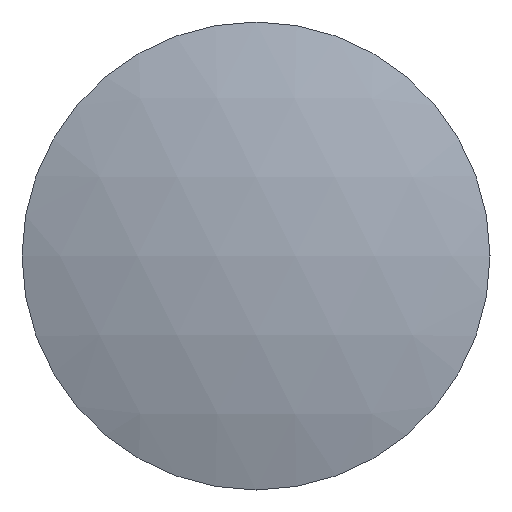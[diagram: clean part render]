
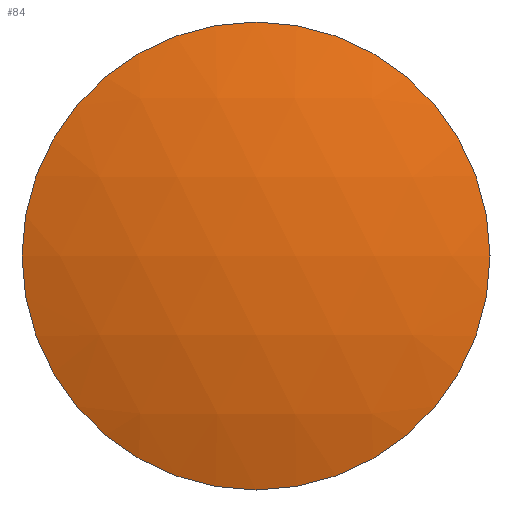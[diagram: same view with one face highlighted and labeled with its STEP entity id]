
A CAD part, front view. The second image highlights one B-rep face of the part: STEP entity #84.
In plain terms, the highlighted spherical face has radius 62.28 mm.
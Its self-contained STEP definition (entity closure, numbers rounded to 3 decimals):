
#68=CARTESIAN_POINT('',(0.0,53.68,0.0));
#69=DIRECTION('',(0.0,0.0,1.0));
#70=DIRECTION('',(1.0,0.0,0.0));
#71=AXIS2_PLACEMENT_3D('',#68,#69,#70);
#72=SPHERICAL_SURFACE('',#71,62.28);
#73=CARTESIAN_POINT('',(-20.,-5.301,0.0));
#74=VERTEX_POINT('',#73);
#75=CARTESIAN_POINT('',(0.0,-5.301,0.0));
#76=DIRECTION('',(0.0,1.0,0.0));
#77=DIRECTION('',(-1.0,0.0,0.0));
#78=AXIS2_PLACEMENT_3D('',#75,#76,#77);
#79=CIRCLE('',#78,20.);
#80=EDGE_CURVE('',#74,#74,#79,.T.);
#81=ORIENTED_EDGE('',*,*,#80,.F.);
#82=EDGE_LOOP('',(#81));
#83=FACE_OUTER_BOUND('',#82,.T.);
#84=ADVANCED_FACE('',(#83),#72,.T.);
